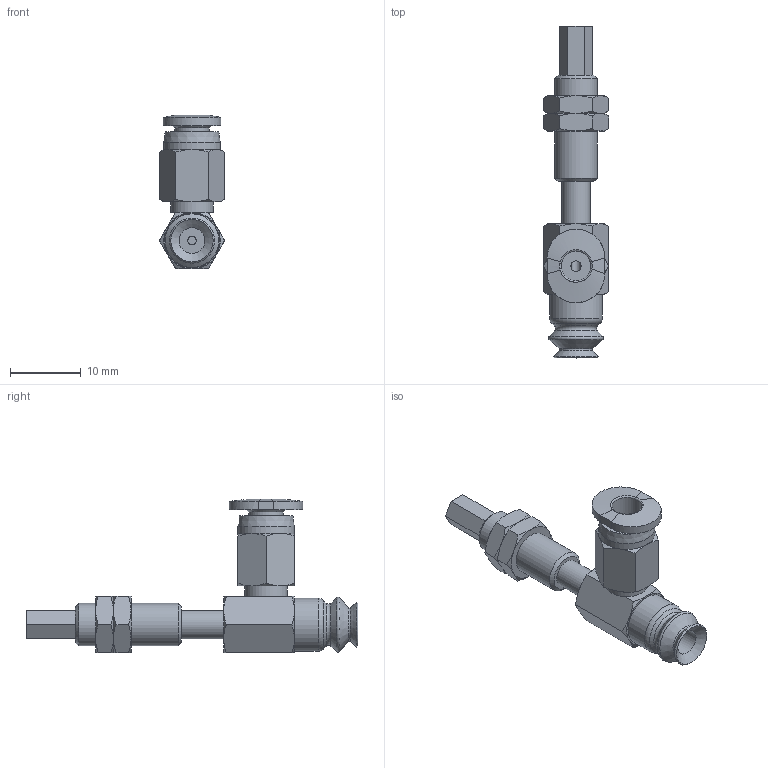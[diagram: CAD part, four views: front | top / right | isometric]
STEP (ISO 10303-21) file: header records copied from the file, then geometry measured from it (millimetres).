
FILE_DESCRIPTION(('STEP AP203'),'1');
FILE_NAME('-O.stp','2025-04-23T07:04:21',(' '),(' '),'Spatial InterOp 3D',' ',' ');
FILE_SCHEMA(('CONFIG_CONTROL_DESIGN'));
Length unit declared in the file: millimetre
Products named in the file (7): BNABPJYS-6-6-※-O; CONNECTOR_S-6-6; NUT-NAPJ-6-6-s; NAPJTS-6-6-FBODY; NAPJTS-6-6-MBODY; BPJG-6-※; PC-C_04-M3
Assembly tree (7 placements, depth 2):
  BNABPJYS-6-6-※-O
    CONNECTOR_S-6-6
    NUT-NAPJ-6-6-s  x2
    NAPJTS-6-6-FBODY
    NAPJTS-6-6-MBODY
    BPJG-6-※
    PC-C_04-M3
Bounding box: 9.24 x 47 x 21.77 mm (x, y, z)
Volume: 1516 mm3; surface area: 3058 mm2
Topology: 6 solids, 8 shells, 185 faces, 390 edges, 233 vertices
Faces by surface type: plane 72, cone 71, cylinder 24, torus 11, bspline 4, revolution 3
Full cylindrical faces by diameter (mm): 1.2 x1, 2.459 x2, 2.5 x2, 3 x2, 3.64 x1, 4 x4, 4.9 x1, 5.188 x2, 6 x4, 6.1 x1, 7.5 x1, 8 x1
Entity records: 4692 total; most frequent: CARTESIAN_POINT 1256, DIRECTION 645, ORIENTED_EDGE 552, AXIS2_PLACEMENT_3D 284, EDGE_CURVE 277, EDGE_LOOP 238, VERTEX_POINT 193, FACE_OUTER_BOUND 134
